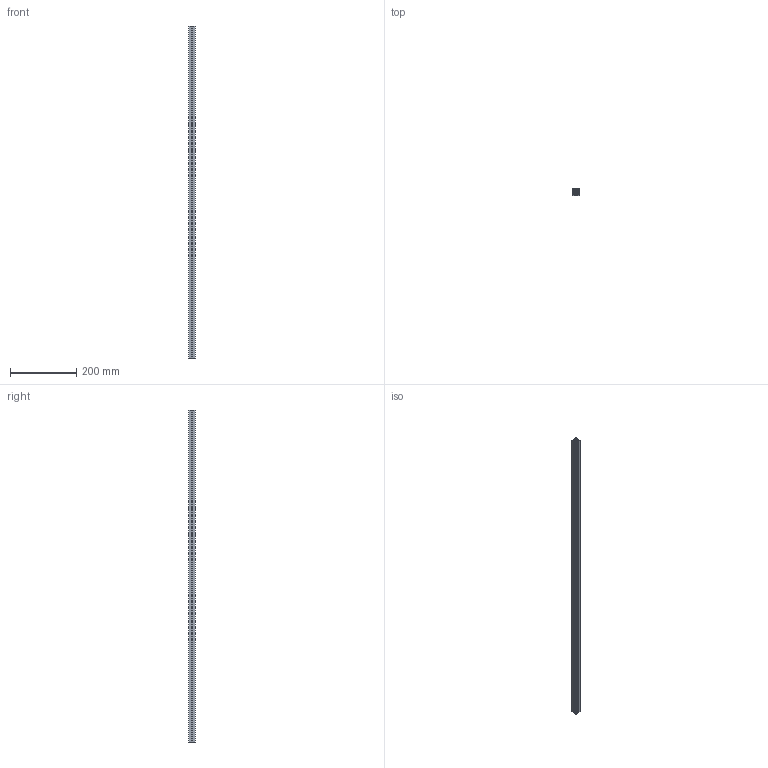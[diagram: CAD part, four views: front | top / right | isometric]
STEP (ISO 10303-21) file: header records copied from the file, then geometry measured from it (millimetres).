
FILE_DESCRIPTION((''),'2;1');
FILE_NAME('\\Dtp_2\share\iriguchi2\M4フレーム\AFS-2020-4.stp','2014-11-25T14:59:30',('AMS8'),(''),'Autodesk Inventor 2008','Autodesk Inventor 2008','');
FILE_SCHEMA(('AUTOMOTIVE_DESIGN { 1 0 10303 214 1 1 1 1 }'));
Length unit declared in the file: millimetre
Products named in the file (1): Part25
Bounding box: 20 x 20 x 1000 mm (x, y, z)
Volume: 161830.5 mm3; surface area: 220887.4 mm2
Topology: 1 solids, 1 shells, 111 faces, 327 edges, 218 vertices
Faces by surface type: cylinder 57, plane 54
Full cylindrical faces by diameter (mm): 3.3 x1, 4 x4
Entity records: 3756 total; most frequent: DIRECTION 660, CARTESIAN_POINT 652, ORIENTED_EDGE 644, EDGE_CURVE 322, AXIS2_PLACEMENT_3D 226, VERTEX_POINT 218, VECTOR 208, LINE 208
